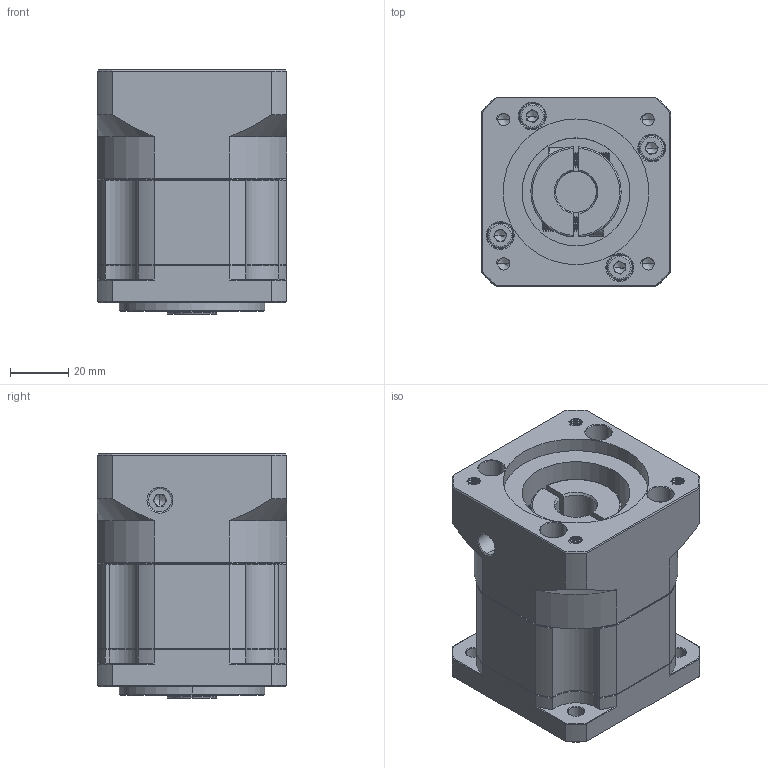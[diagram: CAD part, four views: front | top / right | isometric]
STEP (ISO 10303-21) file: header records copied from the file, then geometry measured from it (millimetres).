
FILE_DESCRIPTION (( 'STEP AP214' ), '1' );
FILE_NAME ('ZB60-K10-L1-14-50-70-M5.STEP', '2022-04-17T05:22:32', ( '' ), ( 'Microsoft' ), 'SwSTEP 2.0', 'SolidWorks 2016', '' );
FILE_SCHEMA (( 'AUTOMOTIVE_DESIGN' ));
Length unit declared in the file: millimetre
Products named in the file (1): ZB60-K10-L1-14-50-70-M5
Bounding box: 65 x 65 x 84 mm (x, y, z)
Volume: 261600.2 mm3; surface area: 53802.5 mm2
Topology: 6 solids, 6 shells, 1833 faces, 4859 edges, 3112 vertices
Faces by surface type: plane 876, cylinder 354, bspline 292, cone 277, torus 34
Entity records: 95857 total; most frequent: CARTESIAN_POINT 32323, ORIENTED_EDGE 9662, DIRECTION 8003, EDGE_CURVE 4831, VERTEX_POINT 3112, VECTOR 2983, LINE 2983, AXIS2_PLACEMENT_3D 2510
